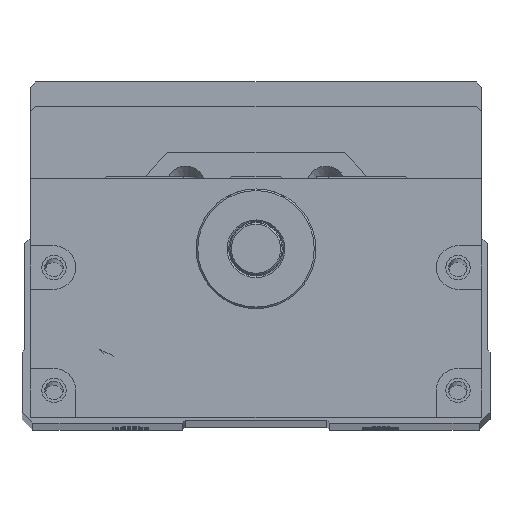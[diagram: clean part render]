
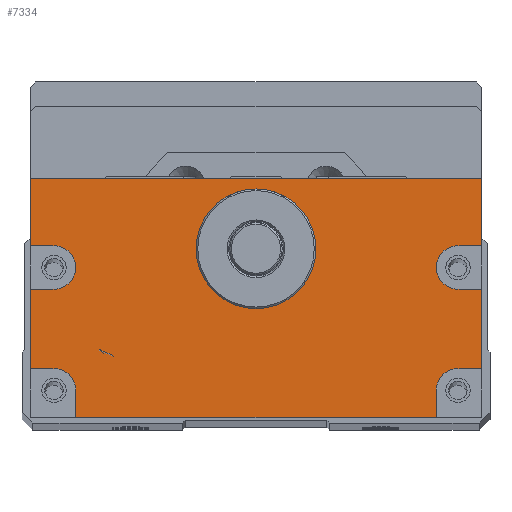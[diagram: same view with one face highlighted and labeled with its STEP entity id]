
A CAD part, top view. The second image highlights one B-rep face of the part: STEP entity #7334.
In plain terms, the highlighted planar face has unit normal (0, 0, 1).
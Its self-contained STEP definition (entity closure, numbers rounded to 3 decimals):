
#579=LINE('',#28735,#1310);
#581=LINE('',#28739,#1312);
#582=LINE('',#28742,#1313);
#583=LINE('',#28744,#1314);
#584=LINE('',#28748,#1315);
#585=LINE('',#28750,#1316);
#586=LINE('',#28751,#1317);
#587=LINE('',#28753,#1318);
#588=LINE('',#28757,#1319);
#589=LINE('',#28759,#1320);
#590=LINE('',#28761,#1321);
#591=LINE('',#28765,#1322);
#592=LINE('',#28767,#1323);
#593=LINE('',#28769,#1324);
#1310=VECTOR('',#17175,1.);
#1312=VECTOR('',#17179,1.);
#1313=VECTOR('',#17180,1.);
#1314=VECTOR('',#17181,1.);
#1315=VECTOR('',#17184,1.);
#1316=VECTOR('',#17185,1.);
#1317=VECTOR('',#17186,1.);
#1318=VECTOR('',#17187,1.);
#1319=VECTOR('',#17190,1.);
#1320=VECTOR('',#17191,1.);
#1321=VECTOR('',#17192,1.);
#1322=VECTOR('',#17195,1.);
#1323=VECTOR('',#17196,1.);
#1324=VECTOR('',#17197,1.);
#6798=FACE_BOUND('',#8802,.T.);
#6799=FACE_BOUND('',#8803,.T.);
#7334=ADVANCED_FACE('',(#6798,#6799),#7851,.T.);
#7851=PLANE('',#15605);
#8802=EDGE_LOOP('',(#10342,#10343,#10344,#10345,#10346,#10347,#10348,#10349,
#10350,#10351,#10352,#10353,#10354,#10355,#10356,#10357,#10358,#10359));
#8803=EDGE_LOOP('',(#10360));
#10342=ORIENTED_EDGE('',*,*,#13840,.F.);
#10343=ORIENTED_EDGE('',*,*,#13841,.T.);
#10344=ORIENTED_EDGE('',*,*,#13842,.F.);
#10345=ORIENTED_EDGE('',*,*,#13843,.F.);
#10346=ORIENTED_EDGE('',*,*,#13844,.F.);
#10347=ORIENTED_EDGE('',*,*,#13845,.T.);
#10348=ORIENTED_EDGE('',*,*,#13838,.T.);
#10349=ORIENTED_EDGE('',*,*,#13846,.T.);
#10350=ORIENTED_EDGE('',*,*,#13847,.F.);
#10351=ORIENTED_EDGE('',*,*,#13848,.F.);
#10352=ORIENTED_EDGE('',*,*,#13849,.F.);
#10353=ORIENTED_EDGE('',*,*,#13850,.T.);
#10354=ORIENTED_EDGE('',*,*,#13851,.F.);
#10355=ORIENTED_EDGE('',*,*,#13852,.F.);
#10356=ORIENTED_EDGE('',*,*,#13853,.F.);
#10357=ORIENTED_EDGE('',*,*,#13854,.T.);
#10358=ORIENTED_EDGE('',*,*,#13855,.F.);
#10359=ORIENTED_EDGE('',*,*,#13856,.F.);
#10360=ORIENTED_EDGE('',*,*,#13824,.T.);
#12645=VERTEX_POINT('',#28706);
#12658=VERTEX_POINT('',#28734);
#12659=VERTEX_POINT('',#28736);
#12660=VERTEX_POINT('',#28740);
#12661=VERTEX_POINT('',#28741);
#12662=VERTEX_POINT('',#28743);
#12663=VERTEX_POINT('',#28745);
#12664=VERTEX_POINT('',#28747);
#12665=VERTEX_POINT('',#28749);
#12666=VERTEX_POINT('',#28752);
#12667=VERTEX_POINT('',#28754);
#12668=VERTEX_POINT('',#28756);
#12669=VERTEX_POINT('',#28758);
#12670=VERTEX_POINT('',#28760);
#12671=VERTEX_POINT('',#28762);
#12672=VERTEX_POINT('',#28764);
#12673=VERTEX_POINT('',#28766);
#12674=VERTEX_POINT('',#28768);
#12675=VERTEX_POINT('',#28770);
#13824=EDGE_CURVE('',#12645,#12645,#14965,.T.);
#13838=EDGE_CURVE('',#12659,#12658,#579,.T.);
#13840=EDGE_CURVE('',#12660,#12661,#581,.T.);
#13841=EDGE_CURVE('',#12660,#12662,#582,.T.);
#13842=EDGE_CURVE('',#12663,#12662,#583,.T.);
#13843=EDGE_CURVE('',#12664,#12663,#14974,.T.);
#13844=EDGE_CURVE('',#12665,#12664,#584,.T.);
#13845=EDGE_CURVE('',#12665,#12659,#585,.T.);
#13846=EDGE_CURVE('',#12658,#12666,#586,.T.);
#13847=EDGE_CURVE('',#12667,#12666,#587,.T.);
#13848=EDGE_CURVE('',#12668,#12667,#14975,.T.);
#13849=EDGE_CURVE('',#12669,#12668,#588,.T.);
#13850=EDGE_CURVE('',#12669,#12670,#589,.T.);
#13851=EDGE_CURVE('',#12671,#12670,#590,.T.);
#13852=EDGE_CURVE('',#12672,#12671,#14976,.T.);
#13853=EDGE_CURVE('',#12673,#12672,#591,.T.);
#13854=EDGE_CURVE('',#12673,#12674,#592,.T.);
#13855=EDGE_CURVE('',#12675,#12674,#593,.T.);
#13856=EDGE_CURVE('',#12661,#12675,#14977,.T.);
#14965=CIRCLE('',#15589,11.);
#14974=CIRCLE('',#15601,4.);
#14975=CIRCLE('',#15602,4.);
#14976=CIRCLE('',#15603,4.);
#14977=CIRCLE('',#15604,4.);
#15589=AXIS2_PLACEMENT_3D('',#28705,#17148,#17149);
#15601=AXIS2_PLACEMENT_3D('',#28746,#17182,#17183);
#15602=AXIS2_PLACEMENT_3D('',#28755,#17188,#17189);
#15603=AXIS2_PLACEMENT_3D('',#28763,#17193,#17194);
#15604=AXIS2_PLACEMENT_3D('',#28771,#17198,#17199);
#15605=AXIS2_PLACEMENT_3D('',#28772,#17200,#17201);
#17148=DIRECTION('',(0.,0.,-1.));
#17149=DIRECTION('',(1.,0.,0.));
#17175=DIRECTION('',(-1.,0.,0.));
#17179=DIRECTION('',(-1.,0.,0.));
#17180=DIRECTION('',(0.,1.,0.));
#17181=DIRECTION('',(1.,0.,0.));
#17182=DIRECTION('',(0.,0.,1.));
#17183=DIRECTION('',(1.,0.,0.));
#17184=DIRECTION('',(-1.,0.,0.));
#17185=DIRECTION('',(0.,1.,0.));
#17186=DIRECTION('',(0.,-1.,0.));
#17187=DIRECTION('',(-1.,0.,0.));
#17188=DIRECTION('',(0.,0.,1.));
#17189=DIRECTION('',(1.,0.,0.));
#17190=DIRECTION('',(1.,0.,0.));
#17191=DIRECTION('',(0.,-1.,0.));
#17192=DIRECTION('',(-1.,0.,0.));
#17193=DIRECTION('',(0.,0.,1.));
#17194=DIRECTION('',(1.,0.,0.));
#17195=DIRECTION('',(0.,1.,0.));
#17196=DIRECTION('',(1.,0.,0.));
#17197=DIRECTION('',(0.,-1.,0.));
#17198=DIRECTION('',(0.,0.,1.));
#17199=DIRECTION('',(1.,0.,0.));
#17200=DIRECTION('',(0.,0.,1.));
#17201=DIRECTION('',(-1.,0.,0.));
#28705=CARTESIAN_POINT('',(150.,0.,582.5));
#28706=CARTESIAN_POINT('',(161.,0.,582.5));
#28734=CARTESIAN_POINT('',(108.5,13.,582.5));
#28735=CARTESIAN_POINT('',(191.5,13.,582.5));
#28736=CARTESIAN_POINT('',(191.5,13.,582.5));
#28739=CARTESIAN_POINT('',(191.5,-22.,582.5));
#28740=CARTESIAN_POINT('',(191.5,-22.,582.5));
#28741=CARTESIAN_POINT('',(187.115,-22.,582.5));
#28742=CARTESIAN_POINT('',(191.5,-31.,582.5));
#28743=CARTESIAN_POINT('',(191.5,-7.431,582.5));
#28744=CARTESIAN_POINT('',(191.5,-7.431,582.5));
#28745=CARTESIAN_POINT('',(187.115,-7.431,582.5));
#28746=CARTESIAN_POINT('',(187.115,-3.431,582.5));
#28747=CARTESIAN_POINT('',(187.115,0.569,582.5));
#28748=CARTESIAN_POINT('',(191.5,0.569,582.5));
#28749=CARTESIAN_POINT('',(191.5,0.569,582.5));
#28750=CARTESIAN_POINT('',(191.5,-31.,582.5));
#28751=CARTESIAN_POINT('',(108.5,27.5,582.5));
#28752=CARTESIAN_POINT('',(108.5,0.569,582.5));
#28753=CARTESIAN_POINT('',(191.5,0.569,582.5));
#28754=CARTESIAN_POINT('',(112.885,0.569,582.5));
#28755=CARTESIAN_POINT('',(112.885,-3.431,582.5));
#28756=CARTESIAN_POINT('',(112.885,-7.431,582.5));
#28757=CARTESIAN_POINT('',(191.5,-7.431,582.5));
#28758=CARTESIAN_POINT('',(108.5,-7.431,582.5));
#28759=CARTESIAN_POINT('',(108.5,27.5,582.5));
#28760=CARTESIAN_POINT('',(108.5,-22.,582.5));
#28761=CARTESIAN_POINT('',(191.5,-22.,582.5));
#28762=CARTESIAN_POINT('',(112.885,-22.,582.5));
#28763=CARTESIAN_POINT('',(112.885,-26.,582.5));
#28764=CARTESIAN_POINT('',(116.885,-26.,582.5));
#28765=CARTESIAN_POINT('',(116.885,-31.,582.5));
#28766=CARTESIAN_POINT('',(116.885,-31.,582.5));
#28767=CARTESIAN_POINT('',(108.5,-31.,582.5));
#28768=CARTESIAN_POINT('',(183.115,-31.,582.5));
#28769=CARTESIAN_POINT('',(183.115,-31.,582.5));
#28770=CARTESIAN_POINT('',(183.115,-26.,582.5));
#28771=CARTESIAN_POINT('',(187.115,-26.,582.5));
#28772=CARTESIAN_POINT('',(191.5,-31.,582.5));
